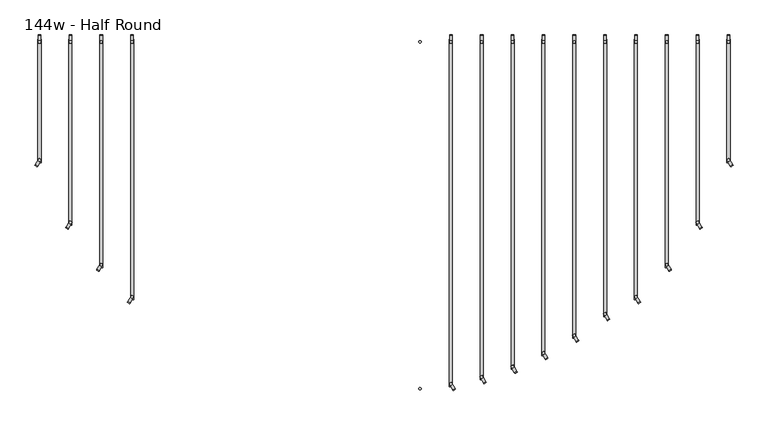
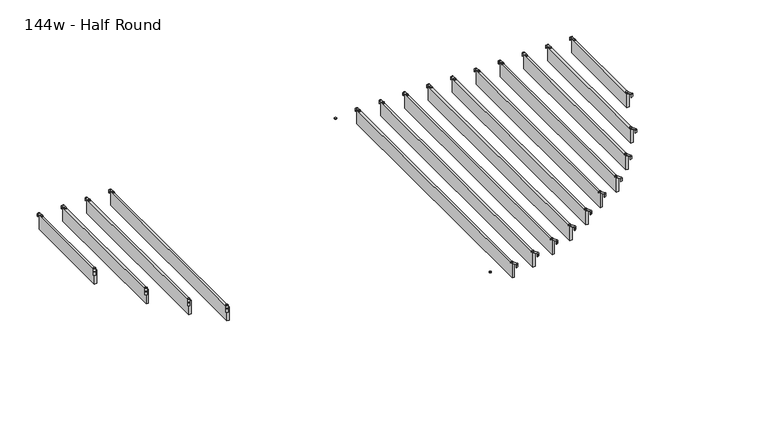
"""IFC4 building model written with IfcOpenShell, lengths in millimetres: furniture geometry, Haworth_Pergola_Ceiling_Slat_Radial : 144w - Half Round."""

from ifc_helpers import new_model, si_unit, point, frame, frame_2d, origin, place, context, project, spatial, polyline, circle_curve, trimmed, segment, composite_curve, outline, extrude, source, transform, mapped, element, save


def furniture_144w_half_round_42c44f93(model_context):
    return source(origin(), model_context, "Body", "SweptSolid", [
        extrude(outline(composite_curve([segment(trimmed(circle_curve(frame_2d((-1.0160034, 0.0159998)), 1.016), [point((-1.0160034, -1.0000002))], [point((-3.4e-06, 0.0159998))], True, "CARTESIAN"), True, "CONTINUOUS"), segment(polyline([(-3.4e-06, 0.0159998), (-3.4e-06, 36.778517), (2.5329992, 36.778517), (2.5329992, 0.0229991)]), True, "CONTINUOUS"), segment(trimmed(circle_curve(frame_2d((-1.1500008, 0.0229991)), 3.683), [point((2.5329992, 0.0229991))], [point((-1.1500008, -3.660001))], False, "CARTESIAN"), True, "CONTINUOUS"), segment(polyline([(-1.1500008, -3.660001), (-19.0498319, -3.660001), (-19.0498319, -1.0000002), (-1.0160034, -1.0000002)]), True, "CONTINUOUS")], self_intersect=False)), frame((-1673.3208344, 1604.784826, 2438.4), z_axis=(-0.8660254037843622, 0.5000000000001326, 0.0), x_axis=(0.0, 0.0, 1.0)), (0.0, 0.0, 1.0), 13.0000002),
        extrude(outline(composite_curve([segment(trimmed(circle_curve(frame_2d((-1663.7, 2218.9346)), 5.9838099), [point((-1663.7, 2212.9507901))], [point((-1663.7, 2224.9184099))], False, "CARTESIAN"), True, "CONTINUOUS"), segment(trimmed(circle_curve(frame_2d((-1663.7, 2218.9346)), 5.9838099), [point((-1663.7, 2224.9184099))], [point((-1663.7, 2212.9507901))], False, "CARTESIAN"), True, "CONTINUOUS")], self_intersect=False)), frame((0.0, 0.0, 2440.9329992), z_axis=(0.0, 0.0, 1.0), x_axis=(1.0, 0.0, 0.0)), (0.0, 0.0, 1.0), 3.4400008),
        extrude(outline(composite_curve([segment(trimmed(circle_curve(frame_2d((-1663.7, 1634.4486)), 5.9838099), [point((-1663.7, 1640.4324099))], [point((-1663.7, 1628.4647901))], False, "CARTESIAN"), True, "CONTINUOUS"), segment(trimmed(circle_curve(frame_2d((-1663.7, 1634.4486)), 5.9838099), [point((-1663.7, 1628.4647901))], [point((-1663.7, 1640.4324099))], False, "CARTESIAN"), True, "CONTINUOUS")], self_intersect=False)), frame((0.0, 0.0, 2440.9329992), z_axis=(0.0, 0.0, 1.0), x_axis=(1.0, 0.0, 0.0)), (0.0, 0.0, 1.0), 3.4400008),
        extrude(outline(composite_curve([segment(polyline([(2253.0946, 2419.2231711), (2250.4345993, 2419.2231711), (2250.4345993, 2437.2635571)]), True, "CONTINUOUS"), segment(trimmed(circle_curve(frame_2d((2249.4251568, 2437.2635571)), 1.0094425), [point((2250.4345993, 2437.2635571))], [point((2249.4251568, 2438.2729997))], True, "CARTESIAN"), True, "CONTINUOUS"), segment(polyline([(2249.4251568, 2438.2729997), (2212.4346, 2438.2729997), (2212.4346, 2440.9329992), (2249.4116, 2440.9329992)]), True, "CONTINUOUS"), segment(trimmed(circle_curve(frame_2d((2249.4116, 2437.2499992)), 3.683), [point((2249.4116, 2440.9329992))], [point((2253.0946, 2437.2499992))], False, "CARTESIAN"), True, "CONTINUOUS"), segment(polyline([(2253.0946, 2437.2499992), (2253.0946, 2419.2231711)]), True, "CONTINUOUS")], self_intersect=False)), frame((-1670.1930003, 0.0, 0.0), z_axis=(1.0, 0.0, 0.0), x_axis=(0.0, 1.0, 0.0)), (0.0, 0.0, 1.0), 13.0),
        extrude(outline(polyline([(-1671.193, 1620.7486), (-1671.193, 2232.6346), (-1656.207, 2232.6346), (-1656.207, 1620.7486), (-1671.193, 1620.7486)])), frame((0.0, 0.0, 2346.198), z_axis=(0.0, 0.0, 1.0), x_axis=(1.0, 0.0, 0.0)), (0.0, 0.0, 1.0), 92.202),
        extrude(outline(composite_curve([segment(trimmed(circle_curve(frame_2d((-1.0160034, 0.0159998)), 1.016), [point((-1.0160034, -1.0000002))], [point((-3.4e-06, 0.0159998))], True, "CARTESIAN"), True, "CONTINUOUS"), segment(polyline([(-3.4e-06, 0.0159998), (-3.4e-06, 36.778517), (2.5329992, 36.778517), (2.5329992, 0.0229991)]), True, "CONTINUOUS"), segment(trimmed(circle_curve(frame_2d((-1.1500008, 0.0229991)), 3.683), [point((2.5329992, 0.0229991))], [point((-1.1500008, -3.660001))], False, "CARTESIAN"), True, "CONTINUOUS"), segment(polyline([(-1.1500008, -3.660001), (-19.0498319, -3.660001), (-19.0498319, -1.0000002), (-1.0160034, -1.0000002)]), True, "CONTINUOUS")], self_intersect=False)), frame((-1520.9208344, 1296.682826, 2438.4), z_axis=(-0.8660254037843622, 0.5000000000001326, 0.0), x_axis=(0.0, 0.0, 1.0)), (0.0, 0.0, 1.0), 13.0000002),
        extrude(outline(composite_curve([segment(trimmed(circle_curve(frame_2d((-1511.3, 2218.9346)), 5.9838099), [point((-1511.3, 2212.9507901))], [point((-1511.3, 2224.9184099))], False, "CARTESIAN"), True, "CONTINUOUS"), segment(trimmed(circle_curve(frame_2d((-1511.3, 2218.9346)), 5.9838099), [point((-1511.3, 2224.9184099))], [point((-1511.3, 2212.9507901))], False, "CARTESIAN"), True, "CONTINUOUS")], self_intersect=False)), frame((0.0, 0.0, 2440.9329992), z_axis=(0.0, 0.0, 1.0), x_axis=(1.0, 0.0, 0.0)), (0.0, 0.0, 1.0), 3.4400008),
        extrude(outline(composite_curve([segment(trimmed(circle_curve(frame_2d((-1511.3, 1326.3466)), 5.9838099), [point((-1511.3, 1332.3304099))], [point((-1511.3, 1320.3627901))], False, "CARTESIAN"), True, "CONTINUOUS"), segment(trimmed(circle_curve(frame_2d((-1511.3, 1326.3466)), 5.9838099), [point((-1511.3, 1320.3627901))], [point((-1511.3, 1332.3304099))], False, "CARTESIAN"), True, "CONTINUOUS")], self_intersect=False)), frame((0.0, 0.0, 2440.9329992), z_axis=(0.0, 0.0, 1.0), x_axis=(1.0, 0.0, 0.0)), (0.0, 0.0, 1.0), 3.4400008),
        extrude(outline(composite_curve([segment(polyline([(2253.0946, 2419.2231711), (2250.4345993, 2419.2231711), (2250.4345993, 2437.2635571)]), True, "CONTINUOUS"), segment(trimmed(circle_curve(frame_2d((2249.4251568, 2437.2635571)), 1.0094425), [point((2250.4345993, 2437.2635571))], [point((2249.4251568, 2438.2729997))], True, "CARTESIAN"), True, "CONTINUOUS"), segment(polyline([(2249.4251568, 2438.2729997), (2212.4346, 2438.2729997), (2212.4346, 2440.9329992), (2249.4116, 2440.9329992)]), True, "CONTINUOUS"), segment(trimmed(circle_curve(frame_2d((2249.4116, 2437.2499992)), 3.683), [point((2249.4116, 2440.9329992))], [point((2253.0946, 2437.2499992))], False, "CARTESIAN"), True, "CONTINUOUS"), segment(polyline([(2253.0946, 2437.2499992), (2253.0946, 2419.2231711)]), True, "CONTINUOUS")], self_intersect=False)), frame((-1517.7930003, 0.0, 0.0), z_axis=(1.0, 0.0, 0.0), x_axis=(0.0, 1.0, 0.0)), (0.0, 0.0, 1.0), 13.0),
        extrude(outline(polyline([(-1518.793, 1312.6466), (-1518.793, 2232.6346), (-1503.807, 2232.6346), (-1503.807, 1312.6466), (-1518.793, 1312.6466)])), frame((0.0, 0.0, 2346.198), z_axis=(0.0, 0.0, 1.0), x_axis=(1.0, 0.0, 0.0)), (0.0, 0.0, 1.0), 92.202),
        extrude(outline(composite_curve([segment(trimmed(circle_curve(frame_2d((-1.0160034, 0.0159998)), 1.016), [point((-1.0160034, -1.0000002))], [point((-3.4e-06, 0.0159998))], True, "CARTESIAN"), True, "CONTINUOUS"), segment(polyline([(-3.4e-06, 0.0159998), (-3.4e-06, 36.778517), (2.5329992, 36.778517), (2.5329992, 0.0229991)]), True, "CONTINUOUS"), segment(trimmed(circle_curve(frame_2d((-1.1500008, 0.0229991)), 3.683), [point((2.5329992, 0.0229991))], [point((-1.1500008, -3.660001))], False, "CARTESIAN"), True, "CONTINUOUS"), segment(polyline([(-1.1500008, -3.660001), (-19.0498319, -3.660001), (-19.0498319, -1.0000002), (-1.0160034, -1.0000002)]), True, "CONTINUOUS")], self_intersect=False)), frame((-1368.5208344, 1087.742426, 2438.4), z_axis=(-0.8660254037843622, 0.5000000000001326, 0.0), x_axis=(0.0, 0.0, 1.0)), (0.0, 0.0, 1.0), 13.0000002),
        extrude(outline(composite_curve([segment(trimmed(circle_curve(frame_2d((-1358.9, 2218.9346)), 5.9838099), [point((-1358.9, 2212.9507901))], [point((-1358.9, 2224.9184099))], False, "CARTESIAN"), True, "CONTINUOUS"), segment(trimmed(circle_curve(frame_2d((-1358.9, 2218.9346)), 5.9838099), [point((-1358.9, 2224.9184099))], [point((-1358.9, 2212.9507901))], False, "CARTESIAN"), True, "CONTINUOUS")], self_intersect=False)), frame((0.0, 0.0, 2440.9329992), z_axis=(0.0, 0.0, 1.0), x_axis=(1.0, 0.0, 0.0)), (0.0, 0.0, 1.0), 3.4400008),
        extrude(outline(composite_curve([segment(trimmed(circle_curve(frame_2d((-1358.9, 1117.4062)), 5.9838099), [point((-1358.9, 1123.3900099))], [point((-1358.9, 1111.4223901))], False, "CARTESIAN"), True, "CONTINUOUS"), segment(trimmed(circle_curve(frame_2d((-1358.9, 1117.4062)), 5.9838099), [point((-1358.9, 1111.4223901))], [point((-1358.9, 1123.3900099))], False, "CARTESIAN"), True, "CONTINUOUS")], self_intersect=False)), frame((0.0, 0.0, 2440.9329992), z_axis=(0.0, 0.0, 1.0), x_axis=(1.0, 0.0, 0.0)), (0.0, 0.0, 1.0), 3.4400008),
        extrude(outline(composite_curve([segment(polyline([(2253.0946, 2419.2231711), (2250.4345993, 2419.2231711), (2250.4345993, 2437.2635571)]), True, "CONTINUOUS"), segment(trimmed(circle_curve(frame_2d((2249.4251568, 2437.2635571)), 1.0094425), [point((2250.4345993, 2437.2635571))], [point((2249.4251568, 2438.2729997))], True, "CARTESIAN"), True, "CONTINUOUS"), segment(polyline([(2249.4251568, 2438.2729997), (2212.4346, 2438.2729997), (2212.4346, 2440.9329992), (2249.4116, 2440.9329992)]), True, "CONTINUOUS"), segment(trimmed(circle_curve(frame_2d((2249.4116, 2437.2499992)), 3.683), [point((2249.4116, 2440.9329992))], [point((2253.0946, 2437.2499992))], False, "CARTESIAN"), True, "CONTINUOUS"), segment(polyline([(2253.0946, 2437.2499992), (2253.0946, 2419.2231711)]), True, "CONTINUOUS")], self_intersect=False)), frame((-1365.3930003, 0.0, 0.0), z_axis=(1.0, 0.0, 0.0), x_axis=(0.0, 1.0, 0.0)), (0.0, 0.0, 1.0), 13.0),
        extrude(outline(polyline([(-1366.393, 1103.7062), (-1366.393, 2232.6346), (-1351.407, 2232.6346), (-1351.407, 1103.7062), (-1366.393, 1103.7062)])), frame((0.0, 0.0, 2346.198), z_axis=(0.0, 0.0, 1.0), x_axis=(1.0, 0.0, 0.0)), (0.0, 0.0, 1.0), 92.202),
        extrude(outline(composite_curve([segment(trimmed(circle_curve(frame_2d((-1.0160034, 0.0159998)), 1.016), [point((-1.0160034, -1.0000002))], [point((-3.4e-06, 0.0159998))], True, "CARTESIAN"), True, "CONTINUOUS"), segment(polyline([(-3.4e-06, 0.0159998), (-3.4e-06, 36.778517), (2.5329992, 36.778517), (2.5329992, 0.0229991)]), True, "CONTINUOUS"), segment(trimmed(circle_curve(frame_2d((-1.1500008, 0.0229991)), 3.683), [point((2.5329992, 0.0229991))], [point((-1.1500008, -3.660001))], False, "CARTESIAN"), True, "CONTINUOUS"), segment(polyline([(-1.1500008, -3.660001), (-19.0498319, -3.660001), (-19.0498319, -1.0000002), (-1.0160034, -1.0000002)]), True, "CONTINUOUS")], self_intersect=False)), frame((-1216.1208344, 929.246426, 2438.4), z_axis=(-0.8660254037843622, 0.5000000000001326, 0.0), x_axis=(0.0, 0.0, 1.0)), (0.0, 0.0, 1.0), 13.0000002),
        extrude(outline(composite_curve([segment(trimmed(circle_curve(frame_2d((-1206.5, 2218.9346)), 5.9838099), [point((-1206.5, 2212.9507901))], [point((-1206.5, 2224.9184099))], False, "CARTESIAN"), True, "CONTINUOUS"), segment(trimmed(circle_curve(frame_2d((-1206.5, 2218.9346)), 5.9838099), [point((-1206.5, 2224.9184099))], [point((-1206.5, 2212.9507901))], False, "CARTESIAN"), True, "CONTINUOUS")], self_intersect=False)), frame((0.0, 0.0, 2440.9329992), z_axis=(0.0, 0.0, 1.0), x_axis=(1.0, 0.0, 0.0)), (0.0, 0.0, 1.0), 3.4400008),
        extrude(outline(composite_curve([segment(trimmed(circle_curve(frame_2d((-1206.5, 958.9102)), 5.9838099), [point((-1206.5, 964.8940099))], [point((-1206.5, 952.9263901))], False, "CARTESIAN"), True, "CONTINUOUS"), segment(trimmed(circle_curve(frame_2d((-1206.5, 958.9102)), 5.9838099), [point((-1206.5, 952.9263901))], [point((-1206.5, 964.8940099))], False, "CARTESIAN"), True, "CONTINUOUS")], self_intersect=False)), frame((0.0, 0.0, 2440.9329992), z_axis=(0.0, 0.0, 1.0), x_axis=(1.0, 0.0, 0.0)), (0.0, 0.0, 1.0), 3.4400008),
        extrude(outline(composite_curve([segment(polyline([(2253.0946, 2419.2231711), (2250.4345993, 2419.2231711), (2250.4345993, 2437.2635571)]), True, "CONTINUOUS"), segment(trimmed(circle_curve(frame_2d((2249.4251568, 2437.2635571)), 1.0094425), [point((2250.4345993, 2437.2635571))], [point((2249.4251568, 2438.2729997))], True, "CARTESIAN"), True, "CONTINUOUS"), segment(polyline([(2249.4251568, 2438.2729997), (2212.4346, 2438.2729997), (2212.4346, 2440.9329992), (2249.4116, 2440.9329992)]), True, "CONTINUOUS"), segment(trimmed(circle_curve(frame_2d((2249.4116, 2437.2499992)), 3.683), [point((2249.4116, 2440.9329992))], [point((2253.0946, 2437.2499992))], False, "CARTESIAN"), True, "CONTINUOUS"), segment(polyline([(2253.0946, 2437.2499992), (2253.0946, 2419.2231711)]), True, "CONTINUOUS")], self_intersect=False)), frame((-1212.9930003, 0.0, 0.0), z_axis=(1.0, 0.0, 0.0), x_axis=(0.0, 1.0, 0.0)), (0.0, 0.0, 1.0), 13.0),
        extrude(outline(polyline([(-1213.993, 945.2102), (-1213.993, 2232.6346), (-1199.007, 2232.6346), (-1199.007, 945.2102), (-1213.993, 945.2102)])), frame((0.0, 0.0, 2346.198), z_axis=(0.0, 0.0, 1.0), x_axis=(1.0, 0.0, 0.0)), (0.0, 0.0, 1.0), 92.202),
        extrude(outline(composite_curve([segment(polyline([(-1.0160034, 1.0000002), (-19.0498319, 1.0000002), (-19.0498319, 3.660001), (-1.1500008, 3.660001)]), True, "CONTINUOUS"), segment(trimmed(circle_curve(frame_2d((-1.1500008, -0.0229991)), 3.683), [point((-1.1500008, 3.660001))], [point((2.5329992, -0.0229991))], False, "CARTESIAN"), True, "CONTINUOUS"), segment(polyline([(2.5329992, -0.0229991), (2.5329992, -36.778517), (-3.4e-06, -36.778517), (-3.4e-06, -0.0159998)]), True, "CONTINUOUS"), segment(trimmed(circle_curve(frame_2d((-1.0160034, -0.0159998)), 1.016), [point((-3.4e-06, -0.0159998))], [point((-1.0160034, 1.0000002))], True, "CARTESIAN"), True, "CONTINUOUS")], self_intersect=False)), frame((1749.5208344, 1604.784826, 2438.4), z_axis=(0.8660254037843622, 0.5000000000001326, 0.0), x_axis=(0.0, 0.0, 1.0)), (0.0, 0.0, 1.0), 13.0000002),
        extrude(outline(composite_curve([segment(trimmed(circle_curve(frame_2d((1739.9, 2218.9346)), 5.9838099), [point((1739.9, 2212.9507901))], [point((1739.9, 2224.9184099))], False, "CARTESIAN"), True, "CONTINUOUS"), segment(trimmed(circle_curve(frame_2d((1739.9, 2218.9346)), 5.9838099), [point((1739.9, 2224.9184099))], [point((1739.9, 2212.9507901))], False, "CARTESIAN"), True, "CONTINUOUS")], self_intersect=False)), frame((0.0, 0.0, 2440.9329992), z_axis=(0.0, 0.0, 1.0), x_axis=(1.0, 0.0, 0.0)), (0.0, 0.0, 1.0), 3.4400008),
        extrude(outline(composite_curve([segment(trimmed(circle_curve(frame_2d((1739.9, 1634.4486)), 5.9838099), [point((1739.9, 1640.4324099))], [point((1739.9, 1628.4647901))], False, "CARTESIAN"), True, "CONTINUOUS"), segment(trimmed(circle_curve(frame_2d((1739.9, 1634.4486)), 5.9838099), [point((1739.9, 1628.4647901))], [point((1739.9, 1640.4324099))], False, "CARTESIAN"), True, "CONTINUOUS")], self_intersect=False)), frame((0.0, 0.0, 2440.9329992), z_axis=(0.0, 0.0, 1.0), x_axis=(1.0, 0.0, 0.0)), (0.0, 0.0, 1.0), 3.4400008),
        extrude(outline(composite_curve([segment(polyline([(2253.0946, 2419.2231711), (2250.4345993, 2419.2231711), (2250.4345993, 2437.2635571)]), True, "CONTINUOUS"), segment(trimmed(circle_curve(frame_2d((2249.4251568, 2437.2635571)), 1.0094425), [point((2250.4345993, 2437.2635571))], [point((2249.4251568, 2438.2729997))], True, "CARTESIAN"), True, "CONTINUOUS"), segment(polyline([(2249.4251568, 2438.2729997), (2212.4346, 2438.2729997), (2212.4346, 2440.9329992), (2249.4116, 2440.9329992)]), True, "CONTINUOUS"), segment(trimmed(circle_curve(frame_2d((2249.4116, 2437.2499992)), 3.683), [point((2249.4116, 2440.9329992))], [point((2253.0946, 2437.2499992))], False, "CARTESIAN"), True, "CONTINUOUS"), segment(polyline([(2253.0946, 2437.2499992), (2253.0946, 2419.2231711)]), True, "CONTINUOUS")], self_intersect=False)), frame((1733.3930003, 0.0, 0.0), z_axis=(1.0, 0.0, 0.0), x_axis=(0.0, 1.0, 0.0)), (0.0, 0.0, 1.0), 13.0),
        extrude(outline(polyline([(1747.393, 1620.7486), (1732.407, 1620.7486), (1732.407, 2232.6346), (1747.393, 2232.6346), (1747.393, 1620.7486)])), frame((0.0, 0.0, 2346.198), z_axis=(0.0, 0.0, 1.0), x_axis=(1.0, 0.0, 0.0)), (0.0, 0.0, 1.0), 92.202),
        extrude(outline(composite_curve([segment(polyline([(-1.0160034, 1.0000002), (-19.0498319, 1.0000002), (-19.0498319, 3.660001), (-1.1500008, 3.660001)]), True, "CONTINUOUS"), segment(trimmed(circle_curve(frame_2d((-1.1500008, -0.0229991)), 3.683), [point((-1.1500008, 3.660001))], [point((2.5329992, -0.0229991))], False, "CARTESIAN"), True, "CONTINUOUS"), segment(polyline([(2.5329992, -0.0229991), (2.5329992, -36.778517), (-3.4e-06, -36.778517), (-3.4e-06, -0.0159998)]), True, "CONTINUOUS"), segment(trimmed(circle_curve(frame_2d((-1.0160034, -0.0159998)), 1.016), [point((-3.4e-06, -0.0159998))], [point((-1.0160034, 1.0000002))], True, "CARTESIAN"), True, "CONTINUOUS")], self_intersect=False)), frame((1597.1208344, 1296.682826, 2438.4), z_axis=(0.8660254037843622, 0.5000000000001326, 0.0), x_axis=(0.0, 0.0, 1.0)), (0.0, 0.0, 1.0), 13.0000002),
        extrude(outline(composite_curve([segment(trimmed(circle_curve(frame_2d((1587.5, 2218.9346)), 5.9838099), [point((1587.5, 2212.9507901))], [point((1587.5, 2224.9184099))], False, "CARTESIAN"), True, "CONTINUOUS"), segment(trimmed(circle_curve(frame_2d((1587.5, 2218.9346)), 5.9838099), [point((1587.5, 2224.9184099))], [point((1587.5, 2212.9507901))], False, "CARTESIAN"), True, "CONTINUOUS")], self_intersect=False)), frame((0.0, 0.0, 2440.9329992), z_axis=(0.0, 0.0, 1.0), x_axis=(1.0, 0.0, 0.0)), (0.0, 0.0, 1.0), 3.4400008),
        extrude(outline(composite_curve([segment(trimmed(circle_curve(frame_2d((1587.5, 1326.3466)), 5.9838099), [point((1587.5, 1332.3304099))], [point((1587.5, 1320.3627901))], False, "CARTESIAN"), True, "CONTINUOUS"), segment(trimmed(circle_curve(frame_2d((1587.5, 1326.3466)), 5.9838099), [point((1587.5, 1320.3627901))], [point((1587.5, 1332.3304099))], False, "CARTESIAN"), True, "CONTINUOUS")], self_intersect=False)), frame((0.0, 0.0, 2440.9329992), z_axis=(0.0, 0.0, 1.0), x_axis=(1.0, 0.0, 0.0)), (0.0, 0.0, 1.0), 3.4400008),
        extrude(outline(composite_curve([segment(polyline([(2253.0946, 2419.2231711), (2250.4345993, 2419.2231711), (2250.4345993, 2437.2635571)]), True, "CONTINUOUS"), segment(trimmed(circle_curve(frame_2d((2249.4251568, 2437.2635571)), 1.0094425), [point((2250.4345993, 2437.2635571))], [point((2249.4251568, 2438.2729997))], True, "CARTESIAN"), True, "CONTINUOUS"), segment(polyline([(2249.4251568, 2438.2729997), (2212.4346, 2438.2729997), (2212.4346, 2440.9329992), (2249.4116, 2440.9329992)]), True, "CONTINUOUS"), segment(trimmed(circle_curve(frame_2d((2249.4116, 2437.2499992)), 3.683), [point((2249.4116, 2440.9329992))], [point((2253.0946, 2437.2499992))], False, "CARTESIAN"), True, "CONTINUOUS"), segment(polyline([(2253.0946, 2437.2499992), (2253.0946, 2419.2231711)]), True, "CONTINUOUS")], self_intersect=False)), frame((1580.9930003, 0.0, 0.0), z_axis=(1.0, 0.0, 0.0), x_axis=(0.0, 1.0, 0.0)), (0.0, 0.0, 1.0), 13.0),
        extrude(outline(polyline([(1594.993, 1312.6466), (1580.007, 1312.6466), (1580.007, 2232.6346), (1594.993, 2232.6346), (1594.993, 1312.6466)])), frame((0.0, 0.0, 2346.198), z_axis=(0.0, 0.0, 1.0), x_axis=(1.0, 0.0, 0.0)), (0.0, 0.0, 1.0), 92.202),
        extrude(outline(composite_curve([segment(polyline([(-1.0160034, 1.0000002), (-19.0498319, 1.0000002), (-19.0498319, 3.660001), (-1.1500008, 3.660001)]), True, "CONTINUOUS"), segment(trimmed(circle_curve(frame_2d((-1.1500008, -0.0229991)), 3.683), [point((-1.1500008, 3.660001))], [point((2.5329992, -0.0229991))], False, "CARTESIAN"), True, "CONTINUOUS"), segment(polyline([(2.5329992, -0.0229991), (2.5329992, -36.778517), (-3.4e-06, -36.778517), (-3.4e-06, -0.0159998)]), True, "CONTINUOUS"), segment(trimmed(circle_curve(frame_2d((-1.0160034, -0.0159998)), 1.016), [point((-3.4e-06, -0.0159998))], [point((-1.0160034, 1.0000002))], True, "CARTESIAN"), True, "CONTINUOUS")], self_intersect=False)), frame((1444.7208344, 1087.742426, 2438.4), z_axis=(0.8660254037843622, 0.5000000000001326, 0.0), x_axis=(0.0, 0.0, 1.0)), (0.0, 0.0, 1.0), 13.0000002),
        extrude(outline(composite_curve([segment(trimmed(circle_curve(frame_2d((1435.1, 2218.9346)), 5.9838099), [point((1435.1, 2212.9507901))], [point((1435.1, 2224.9184099))], False, "CARTESIAN"), True, "CONTINUOUS"), segment(trimmed(circle_curve(frame_2d((1435.1, 2218.9346)), 5.9838099), [point((1435.1, 2224.9184099))], [point((1435.1, 2212.9507901))], False, "CARTESIAN"), True, "CONTINUOUS")], self_intersect=False)), frame((0.0, 0.0, 2440.9329992), z_axis=(0.0, 0.0, 1.0), x_axis=(1.0, 0.0, 0.0)), (0.0, 0.0, 1.0), 3.4400008),
        extrude(outline(composite_curve([segment(trimmed(circle_curve(frame_2d((1435.1, 1117.4062)), 5.9838099), [point((1435.1, 1123.3900099))], [point((1435.1, 1111.4223901))], False, "CARTESIAN"), True, "CONTINUOUS"), segment(trimmed(circle_curve(frame_2d((1435.1, 1117.4062)), 5.9838099), [point((1435.1, 1111.4223901))], [point((1435.1, 1123.3900099))], False, "CARTESIAN"), True, "CONTINUOUS")], self_intersect=False)), frame((0.0, 0.0, 2440.9329992), z_axis=(0.0, 0.0, 1.0), x_axis=(1.0, 0.0, 0.0)), (0.0, 0.0, 1.0), 3.4400008),
        extrude(outline(composite_curve([segment(polyline([(2253.0946, 2419.2231711), (2250.4345993, 2419.2231711), (2250.4345993, 2437.2635571)]), True, "CONTINUOUS"), segment(trimmed(circle_curve(frame_2d((2249.4251568, 2437.2635571)), 1.0094425), [point((2250.4345993, 2437.2635571))], [point((2249.4251568, 2438.2729997))], True, "CARTESIAN"), True, "CONTINUOUS"), segment(polyline([(2249.4251568, 2438.2729997), (2212.4346, 2438.2729997), (2212.4346, 2440.9329992), (2249.4116, 2440.9329992)]), True, "CONTINUOUS"), segment(trimmed(circle_curve(frame_2d((2249.4116, 2437.2499992)), 3.683), [point((2249.4116, 2440.9329992))], [point((2253.0946, 2437.2499992))], False, "CARTESIAN"), True, "CONTINUOUS"), segment(polyline([(2253.0946, 2437.2499992), (2253.0946, 2419.2231711)]), True, "CONTINUOUS")], self_intersect=False)), frame((1428.5930003, 0.0, 0.0), z_axis=(1.0, 0.0, 0.0), x_axis=(0.0, 1.0, 0.0)), (0.0, 0.0, 1.0), 13.0),
        extrude(outline(polyline([(1442.593, 1103.7062), (1427.607, 1103.7062), (1427.607, 2232.6346), (1442.593, 2232.6346), (1442.593, 1103.7062)])), frame((0.0, 0.0, 2346.198), z_axis=(0.0, 0.0, 1.0), x_axis=(1.0, 0.0, 0.0)), (0.0, 0.0, 1.0), 92.202),
        extrude(outline(composite_curve([segment(polyline([(-1.0160034, 1.0000002), (-19.0498319, 1.0000002), (-19.0498319, 3.660001), (-1.1500008, 3.660001)]), True, "CONTINUOUS"), segment(trimmed(circle_curve(frame_2d((-1.1500008, -0.0229991)), 3.683), [point((-1.1500008, 3.660001))], [point((2.5329992, -0.0229991))], False, "CARTESIAN"), True, "CONTINUOUS"), segment(polyline([(2.5329992, -0.0229991), (2.5329992, -36.778517), (-3.4e-06, -36.778517), (-3.4e-06, -0.0159998)]), True, "CONTINUOUS"), segment(trimmed(circle_curve(frame_2d((-1.0160034, -0.0159998)), 1.016), [point((-3.4e-06, -0.0159998))], [point((-1.0160034, 1.0000002))], True, "CARTESIAN"), True, "CONTINUOUS")], self_intersect=False)), frame((1292.3208344, 929.246426, 2438.4), z_axis=(0.8660254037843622, 0.5000000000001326, 0.0), x_axis=(0.0, 0.0, 1.0)), (0.0, 0.0, 1.0), 13.0000002),
        extrude(outline(composite_curve([segment(trimmed(circle_curve(frame_2d((1282.7, 2218.9346)), 5.9838099), [point((1282.7, 2212.9507901))], [point((1282.7, 2224.9184099))], False, "CARTESIAN"), True, "CONTINUOUS"), segment(trimmed(circle_curve(frame_2d((1282.7, 2218.9346)), 5.9838099), [point((1282.7, 2224.9184099))], [point((1282.7, 2212.9507901))], False, "CARTESIAN"), True, "CONTINUOUS")], self_intersect=False)), frame((0.0, 0.0, 2440.9329992), z_axis=(0.0, 0.0, 1.0), x_axis=(1.0, 0.0, 0.0)), (0.0, 0.0, 1.0), 3.4400008),
        extrude(outline(composite_curve([segment(trimmed(circle_curve(frame_2d((1282.7, 958.9102)), 5.9838099), [point((1282.7, 964.8940099))], [point((1282.7, 952.9263901))], False, "CARTESIAN"), True, "CONTINUOUS"), segment(trimmed(circle_curve(frame_2d((1282.7, 958.9102)), 5.9838099), [point((1282.7, 952.9263901))], [point((1282.7, 964.8940099))], False, "CARTESIAN"), True, "CONTINUOUS")], self_intersect=False)), frame((0.0, 0.0, 2440.9329992), z_axis=(0.0, 0.0, 1.0), x_axis=(1.0, 0.0, 0.0)), (0.0, 0.0, 1.0), 3.4400008),
        extrude(outline(composite_curve([segment(polyline([(2253.0946, 2419.2231711), (2250.4345993, 2419.2231711), (2250.4345993, 2437.2635571)]), True, "CONTINUOUS"), segment(trimmed(circle_curve(frame_2d((2249.4251568, 2437.2635571)), 1.0094425), [point((2250.4345993, 2437.2635571))], [point((2249.4251568, 2438.2729997))], True, "CARTESIAN"), True, "CONTINUOUS"), segment(polyline([(2249.4251568, 2438.2729997), (2212.4346, 2438.2729997), (2212.4346, 2440.9329992), (2249.4116, 2440.9329992)]), True, "CONTINUOUS"), segment(trimmed(circle_curve(frame_2d((2249.4116, 2437.2499992)), 3.683), [point((2249.4116, 2440.9329992))], [point((2253.0946, 2437.2499992))], False, "CARTESIAN"), True, "CONTINUOUS"), segment(polyline([(2253.0946, 2437.2499992), (2253.0946, 2419.2231711)]), True, "CONTINUOUS")], self_intersect=False)), frame((1276.1930003, 0.0, 0.0), z_axis=(1.0, 0.0, 0.0), x_axis=(0.0, 1.0, 0.0)), (0.0, 0.0, 1.0), 13.0),
        extrude(outline(polyline([(1290.193, 945.2102), (1275.207, 945.2102), (1275.207, 2232.6346), (1290.193, 2232.6346), (1290.193, 945.2102)])), frame((0.0, 0.0, 2346.198), z_axis=(0.0, 0.0, 1.0), x_axis=(1.0, 0.0, 0.0)), (0.0, 0.0, 1.0), 92.202),
        extrude(outline(composite_curve([segment(polyline([(-1.0160034, 1.0000002), (-19.0498319, 1.0000002), (-19.0498319, 3.660001), (-1.1500008, 3.660001)]), True, "CONTINUOUS"), segment(trimmed(circle_curve(frame_2d((-1.1500008, -0.0229991)), 3.683), [point((-1.1500008, 3.660001))], [point((2.5329992, -0.0229991))], False, "CARTESIAN"), True, "CONTINUOUS"), segment(polyline([(2.5329992, -0.0229991), (2.5329992, -36.778517), (-3.4e-06, -36.778517), (-3.4e-06, -0.0159998)]), True, "CONTINUOUS"), segment(trimmed(circle_curve(frame_2d((-1.0160034, -0.0159998)), 1.016), [point((-3.4e-06, -0.0159998))], [point((-1.0160034, 1.0000002))], True, "CARTESIAN"), True, "CONTINUOUS")], self_intersect=False)), frame((1139.9208344, 844.156426, 2438.4), z_axis=(0.8660254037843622, 0.5000000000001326, 0.0), x_axis=(0.0, 0.0, 1.0)), (0.0, 0.0, 1.0), 13.0000002),
        extrude(outline(composite_curve([segment(trimmed(circle_curve(frame_2d((1130.3, 2218.9346)), 5.9838099), [point((1130.3, 2212.9507901))], [point((1130.3, 2224.9184099))], False, "CARTESIAN"), True, "CONTINUOUS"), segment(trimmed(circle_curve(frame_2d((1130.3, 2218.9346)), 5.9838099), [point((1130.3, 2224.9184099))], [point((1130.3, 2212.9507901))], False, "CARTESIAN"), True, "CONTINUOUS")], self_intersect=False)), frame((0.0, 0.0, 2440.9329992), z_axis=(0.0, 0.0, 1.0), x_axis=(1.0, 0.0, 0.0)), (0.0, 0.0, 1.0), 3.4400008),
        extrude(outline(composite_curve([segment(trimmed(circle_curve(frame_2d((1130.3, 873.8202)), 5.9838099), [point((1130.3, 879.8040099))], [point((1130.3, 867.8363901))], False, "CARTESIAN"), True, "CONTINUOUS"), segment(trimmed(circle_curve(frame_2d((1130.3, 873.8202)), 5.9838099), [point((1130.3, 867.8363901))], [point((1130.3, 879.8040099))], False, "CARTESIAN"), True, "CONTINUOUS")], self_intersect=False)), frame((0.0, 0.0, 2440.9329992), z_axis=(0.0, 0.0, 1.0), x_axis=(1.0, 0.0, 0.0)), (0.0, 0.0, 1.0), 3.4400008),
        extrude(outline(composite_curve([segment(polyline([(2253.0946, 2419.2231711), (2250.4345993, 2419.2231711), (2250.4345993, 2437.2635571)]), True, "CONTINUOUS"), segment(trimmed(circle_curve(frame_2d((2249.4251568, 2437.2635571)), 1.0094425), [point((2250.4345993, 2437.2635571))], [point((2249.4251568, 2438.2729997))], True, "CARTESIAN"), True, "CONTINUOUS"), segment(polyline([(2249.4251568, 2438.2729997), (2212.4346, 2438.2729997), (2212.4346, 2440.9329992), (2249.4116, 2440.9329992)]), True, "CONTINUOUS"), segment(trimmed(circle_curve(frame_2d((2249.4116, 2437.2499992)), 3.683), [point((2249.4116, 2440.9329992))], [point((2253.0946, 2437.2499992))], False, "CARTESIAN"), True, "CONTINUOUS"), segment(polyline([(2253.0946, 2437.2499992), (2253.0946, 2419.2231711)]), True, "CONTINUOUS")], self_intersect=False)), frame((1123.7930003, 0.0, 0.0), z_axis=(1.0, 0.0, 0.0), x_axis=(0.0, 1.0, 0.0)), (0.0, 0.0, 1.0), 13.0),
        extrude(outline(polyline([(1137.793, 860.1202), (1122.807, 860.1202), (1122.807, 2232.6346), (1137.793, 2232.6346), (1137.793, 860.1202)])), frame((0.0, 0.0, 2346.198), z_axis=(0.0, 0.0, 1.0), x_axis=(1.0, 0.0, 0.0)), (0.0, 0.0, 1.0), 92.202),
        extrude(outline(composite_curve([segment(polyline([(-1.0160034, 1.0000002), (-19.0498319, 1.0000002), (-19.0498319, 3.660001), (-1.1500008, 3.660001)]), True, "CONTINUOUS"), segment(trimmed(circle_curve(frame_2d((-1.1500008, -0.0229991)), 3.683), [point((-1.1500008, 3.660001))], [point((2.5329992, -0.0229991))], False, "CARTESIAN"), True, "CONTINUOUS"), segment(polyline([(2.5329992, -0.0229991), (2.5329992, -36.778517), (-3.4e-06, -36.778517), (-3.4e-06, -0.0159998)]), True, "CONTINUOUS"), segment(trimmed(circle_curve(frame_2d((-1.0160034, -0.0159998)), 1.016), [point((-3.4e-06, -0.0159998))], [point((-1.0160034, 1.0000002))], True, "CARTESIAN"), True, "CONTINUOUS")], self_intersect=False)), frame((987.5208344, 738.340026, 2438.4), z_axis=(0.8660254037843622, 0.5000000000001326, 0.0), x_axis=(0.0, 0.0, 1.0)), (0.0, 0.0, 1.0), 13.0000002),
        extrude(outline(composite_curve([segment(trimmed(circle_curve(frame_2d((977.9, 2218.9346)), 5.9838099), [point((977.9, 2212.9507901))], [point((977.9, 2224.9184099))], False, "CARTESIAN"), True, "CONTINUOUS"), segment(trimmed(circle_curve(frame_2d((977.9, 2218.9346)), 5.9838099), [point((977.9, 2224.9184099))], [point((977.9, 2212.9507901))], False, "CARTESIAN"), True, "CONTINUOUS")], self_intersect=False)), frame((0.0, 0.0, 2440.9329992), z_axis=(0.0, 0.0, 1.0), x_axis=(1.0, 0.0, 0.0)), (0.0, 0.0, 1.0), 3.4400008),
        extrude(outline(composite_curve([segment(trimmed(circle_curve(frame_2d((977.9, 768.0038)), 5.9838099), [point((977.9, 773.9876099))], [point((977.9, 762.0199901))], False, "CARTESIAN"), True, "CONTINUOUS"), segment(trimmed(circle_curve(frame_2d((977.9, 768.0038)), 5.9838099), [point((977.9, 762.0199901))], [point((977.9, 773.9876099))], False, "CARTESIAN"), True, "CONTINUOUS")], self_intersect=False)), frame((0.0, 0.0, 2440.9329992), z_axis=(0.0, 0.0, 1.0), x_axis=(1.0, 0.0, 0.0)), (0.0, 0.0, 1.0), 3.4400008),
        extrude(outline(composite_curve([segment(polyline([(2253.0946, 2419.2231711), (2250.4345993, 2419.2231711), (2250.4345993, 2437.2635571)]), True, "CONTINUOUS"), segment(trimmed(circle_curve(frame_2d((2249.4251568, 2437.2635571)), 1.0094425), [point((2250.4345993, 2437.2635571))], [point((2249.4251568, 2438.2729997))], True, "CARTESIAN"), True, "CONTINUOUS"), segment(polyline([(2249.4251568, 2438.2729997), (2212.4346, 2438.2729997), (2212.4346, 2440.9329992), (2249.4116, 2440.9329992)]), True, "CONTINUOUS"), segment(trimmed(circle_curve(frame_2d((2249.4116, 2437.2499992)), 3.683), [point((2249.4116, 2440.9329992))], [point((2253.0946, 2437.2499992))], False, "CARTESIAN"), True, "CONTINUOUS"), segment(polyline([(2253.0946, 2437.2499992), (2253.0946, 2419.2231711)]), True, "CONTINUOUS")], self_intersect=False)), frame((971.3930003, 0.0, 0.0), z_axis=(1.0, 0.0, 0.0), x_axis=(0.0, 1.0, 0.0)), (0.0, 0.0, 1.0), 13.0),
        extrude(outline(polyline([(985.393, 754.3038), (970.407, 754.3038), (970.407, 2232.6346), (985.393, 2232.6346), (985.393, 754.3038)])), frame((0.0, 0.0, 2346.198), z_axis=(0.0, 0.0, 1.0), x_axis=(1.0, 0.0, 0.0)), (0.0, 0.0, 1.0), 92.202),
        extrude(outline(composite_curve([segment(polyline([(-1.0160034, 1.0000002), (-19.0498319, 1.0000002), (-19.0498319, 3.660001), (-1.1500008, 3.660001)]), True, "CONTINUOUS"), segment(trimmed(circle_curve(frame_2d((-1.1500008, -0.0229991)), 3.683), [point((-1.1500008, 3.660001))], [point((2.5329992, -0.0229991))], False, "CARTESIAN"), True, "CONTINUOUS"), segment(polyline([(2.5329992, -0.0229991), (2.5329992, -36.778517), (-3.4e-06, -36.778517), (-3.4e-06, -0.0159998)]), True, "CONTINUOUS"), segment(trimmed(circle_curve(frame_2d((-1.0160034, -0.0159998)), 1.016), [point((-3.4e-06, -0.0159998))], [point((-1.0160034, 1.0000002))], True, "CARTESIAN"), True, "CONTINUOUS")], self_intersect=False)), frame((835.1208344, 651.446626, 2438.4), z_axis=(0.8660254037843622, 0.5000000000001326, 0.0), x_axis=(0.0, 0.0, 1.0)), (0.0, 0.0, 1.0), 13.0000002),
        extrude(outline(composite_curve([segment(trimmed(circle_curve(frame_2d((825.5, 2218.9346)), 5.9838099), [point((825.5, 2212.9507901))], [point((825.5, 2224.9184099))], False, "CARTESIAN"), True, "CONTINUOUS"), segment(trimmed(circle_curve(frame_2d((825.5, 2218.9346)), 5.9838099), [point((825.5, 2224.9184099))], [point((825.5, 2212.9507901))], False, "CARTESIAN"), True, "CONTINUOUS")], self_intersect=False)), frame((0.0, 0.0, 2440.9329992), z_axis=(0.0, 0.0, 1.0), x_axis=(1.0, 0.0, 0.0)), (0.0, 0.0, 1.0), 3.4400008),
        extrude(outline(composite_curve([segment(trimmed(circle_curve(frame_2d((825.5, 681.1104)), 5.9838099), [point((825.5, 687.0942099))], [point((825.5, 675.1265901))], False, "CARTESIAN"), True, "CONTINUOUS"), segment(trimmed(circle_curve(frame_2d((825.5, 681.1104)), 5.9838099), [point((825.5, 675.1265901))], [point((825.5, 687.0942099))], False, "CARTESIAN"), True, "CONTINUOUS")], self_intersect=False)), frame((0.0, 0.0, 2440.9329992), z_axis=(0.0, 0.0, 1.0), x_axis=(1.0, 0.0, 0.0)), (0.0, 0.0, 1.0), 3.4400008),
        extrude(outline(composite_curve([segment(polyline([(2253.0946, 2419.2231711), (2250.4345993, 2419.2231711), (2250.4345993, 2437.2635571)]), True, "CONTINUOUS"), segment(trimmed(circle_curve(frame_2d((2249.4251568, 2437.2635571)), 1.0094425), [point((2250.4345993, 2437.2635571))], [point((2249.4251568, 2438.2729997))], True, "CARTESIAN"), True, "CONTINUOUS"), segment(polyline([(2249.4251568, 2438.2729997), (2212.4346, 2438.2729997), (2212.4346, 2440.9329992), (2249.4116, 2440.9329992)]), True, "CONTINUOUS"), segment(trimmed(circle_curve(frame_2d((2249.4116, 2437.2499992)), 3.683), [point((2249.4116, 2440.9329992))], [point((2253.0946, 2437.2499992))], False, "CARTESIAN"), True, "CONTINUOUS"), segment(polyline([(2253.0946, 2437.2499992), (2253.0946, 2419.2231711)]), True, "CONTINUOUS")], self_intersect=False)), frame((818.9930003, 0.0, 0.0), z_axis=(1.0, 0.0, 0.0), x_axis=(0.0, 1.0, 0.0)), (0.0, 0.0, 1.0), 13.0),
        extrude(outline(polyline([(832.993, 667.4104), (818.007, 667.4104), (818.007, 2232.6346), (832.993, 2232.6346), (832.993, 667.4104)])), frame((0.0, 0.0, 2346.198), z_axis=(0.0, 0.0, 1.0), x_axis=(1.0, 0.0, 0.0)), (0.0, 0.0, 1.0), 92.202),
        extrude(outline(composite_curve([segment(polyline([(-1.0160034, 1.0000002), (-19.0498319, 1.0000002), (-19.0498319, 3.660001), (-1.1500008, 3.660001)]), True, "CONTINUOUS"), segment(trimmed(circle_curve(frame_2d((-1.1500008, -0.0229991)), 3.683), [point((-1.1500008, 3.660001))], [point((2.5329992, -0.0229991))], False, "CARTESIAN"), True, "CONTINUOUS"), segment(polyline([(2.5329992, -0.0229991), (2.5329992, -36.778517), (-3.4e-06, -36.778517), (-3.4e-06, -0.0159998)]), True, "CONTINUOUS"), segment(trimmed(circle_curve(frame_2d((-1.0160034, -0.0159998)), 1.016), [point((-3.4e-06, -0.0159998))], [point((-1.0160034, 1.0000002))], True, "CARTESIAN"), True, "CONTINUOUS")], self_intersect=False)), frame((682.7208344, 584.289026, 2438.4), z_axis=(0.8660254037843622, 0.5000000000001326, 0.0), x_axis=(0.0, 0.0, 1.0)), (0.0, 0.0, 1.0), 13.0000002),
        extrude(outline(composite_curve([segment(trimmed(circle_curve(frame_2d((673.1, 2218.9346)), 5.9838099), [point((673.1, 2212.9507901))], [point((673.1, 2224.9184099))], False, "CARTESIAN"), True, "CONTINUOUS"), segment(trimmed(circle_curve(frame_2d((673.1, 2218.9346)), 5.9838099), [point((673.1, 2224.9184099))], [point((673.1, 2212.9507901))], False, "CARTESIAN"), True, "CONTINUOUS")], self_intersect=False)), frame((0.0, 0.0, 2440.9329992), z_axis=(0.0, 0.0, 1.0), x_axis=(1.0, 0.0, 0.0)), (0.0, 0.0, 1.0), 3.4400008),
        extrude(outline(composite_curve([segment(trimmed(circle_curve(frame_2d((673.1, 613.9528)), 5.9838099), [point((673.1, 619.9366099))], [point((673.1, 607.9689901))], False, "CARTESIAN"), True, "CONTINUOUS"), segment(trimmed(circle_curve(frame_2d((673.1, 613.9528)), 5.9838099), [point((673.1, 607.9689901))], [point((673.1, 619.9366099))], False, "CARTESIAN"), True, "CONTINUOUS")], self_intersect=False)), frame((0.0, 0.0, 2440.9329992), z_axis=(0.0, 0.0, 1.0), x_axis=(1.0, 0.0, 0.0)), (0.0, 0.0, 1.0), 3.4400008),
        extrude(outline(composite_curve([segment(polyline([(2253.0946, 2419.2231711), (2250.4345993, 2419.2231711), (2250.4345993, 2437.2635571)]), True, "CONTINUOUS"), segment(trimmed(circle_curve(frame_2d((2249.4251568, 2437.2635571)), 1.0094425), [point((2250.4345993, 2437.2635571))], [point((2249.4251568, 2438.2729997))], True, "CARTESIAN"), True, "CONTINUOUS"), segment(polyline([(2249.4251568, 2438.2729997), (2212.4346, 2438.2729997), (2212.4346, 2440.9329992), (2249.4116, 2440.9329992)]), True, "CONTINUOUS"), segment(trimmed(circle_curve(frame_2d((2249.4116, 2437.2499992)), 3.683), [point((2249.4116, 2440.9329992))], [point((2253.0946, 2437.2499992))], False, "CARTESIAN"), True, "CONTINUOUS"), segment(polyline([(2253.0946, 2437.2499992), (2253.0946, 2419.2231711)]), True, "CONTINUOUS")], self_intersect=False)), frame((666.5930003, 0.0, 0.0), z_axis=(1.0, 0.0, 0.0), x_axis=(0.0, 1.0, 0.0)), (0.0, 0.0, 1.0), 13.0),
        extrude(outline(polyline([(680.593, 600.2528), (665.607, 600.2528), (665.607, 2232.6346), (680.593, 2232.6346), (680.593, 600.2528)])), frame((0.0, 0.0, 2346.198), z_axis=(0.0, 0.0, 1.0), x_axis=(1.0, 0.0, 0.0)), (0.0, 0.0, 1.0), 92.202),
        extrude(outline(composite_curve([segment(polyline([(-1.0160034, 1.0000002), (-19.0498319, 1.0000002), (-19.0498319, 3.660001), (-1.1500008, 3.660001)]), True, "CONTINUOUS"), segment(trimmed(circle_curve(frame_2d((-1.1500008, -0.0229991)), 3.683), [point((-1.1500008, 3.660001))], [point((2.5329992, -0.0229991))], False, "CARTESIAN"), True, "CONTINUOUS"), segment(polyline([(2.5329992, -0.0229991), (2.5329992, -36.778517), (-3.4e-06, -36.778517), (-3.4e-06, -0.0159998)]), True, "CONTINUOUS"), segment(trimmed(circle_curve(frame_2d((-1.0160034, -0.0159998)), 1.016), [point((-3.4e-06, -0.0159998))], [point((-1.0160034, 1.0000002))], True, "CARTESIAN"), True, "CONTINUOUS")], self_intersect=False)), frame((530.3208344, 532.904826, 2438.4), z_axis=(0.8660254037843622, 0.5000000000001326, 0.0), x_axis=(0.0, 0.0, 1.0)), (0.0, 0.0, 1.0), 13.0000002),
        extrude(outline(composite_curve([segment(trimmed(circle_curve(frame_2d((520.7, 2218.9346)), 5.9838099), [point((520.7, 2212.9507901))], [point((520.7, 2224.9184099))], False, "CARTESIAN"), True, "CONTINUOUS"), segment(trimmed(circle_curve(frame_2d((520.7, 2218.9346)), 5.9838099), [point((520.7, 2224.9184099))], [point((520.7, 2212.9507901))], False, "CARTESIAN"), True, "CONTINUOUS")], self_intersect=False)), frame((0.0, 0.0, 2440.9329992), z_axis=(0.0, 0.0, 1.0), x_axis=(1.0, 0.0, 0.0)), (0.0, 0.0, 1.0), 3.4400008),
        extrude(outline(composite_curve([segment(trimmed(circle_curve(frame_2d((520.7, 562.5686)), 5.9838099), [point((520.7, 568.5524099))], [point((520.7, 556.5847901))], False, "CARTESIAN"), True, "CONTINUOUS"), segment(trimmed(circle_curve(frame_2d((520.7, 562.5686)), 5.9838099), [point((520.7, 556.5847901))], [point((520.7, 568.5524099))], False, "CARTESIAN"), True, "CONTINUOUS")], self_intersect=False)), frame((0.0, 0.0, 2440.9329992), z_axis=(0.0, 0.0, 1.0), x_axis=(1.0, 0.0, 0.0)), (0.0, 0.0, 1.0), 3.4400008),
        extrude(outline(composite_curve([segment(polyline([(2253.0946, 2419.2231711), (2250.4345993, 2419.2231711), (2250.4345993, 2437.2635571)]), True, "CONTINUOUS"), segment(trimmed(circle_curve(frame_2d((2249.4251568, 2437.2635571)), 1.0094425), [point((2250.4345993, 2437.2635571))], [point((2249.4251568, 2438.2729997))], True, "CARTESIAN"), True, "CONTINUOUS"), segment(polyline([(2249.4251568, 2438.2729997), (2212.4346, 2438.2729997), (2212.4346, 2440.9329992), (2249.4116, 2440.9329992)]), True, "CONTINUOUS"), segment(trimmed(circle_curve(frame_2d((2249.4116, 2437.2499992)), 3.683), [point((2249.4116, 2440.9329992))], [point((2253.0946, 2437.2499992))], False, "CARTESIAN"), True, "CONTINUOUS"), segment(polyline([(2253.0946, 2437.2499992), (2253.0946, 2419.2231711)]), True, "CONTINUOUS")], self_intersect=False)), frame((514.1930003, 0.0, 0.0), z_axis=(1.0, 0.0, 0.0), x_axis=(0.0, 1.0, 0.0)), (0.0, 0.0, 1.0), 13.0),
        extrude(outline(polyline([(528.193, 548.8686), (513.207, 548.8686), (513.207, 2232.6346), (528.193, 2232.6346), (528.193, 548.8686)])), frame((0.0, 0.0, 2346.198), z_axis=(0.0, 0.0, 1.0), x_axis=(1.0, 0.0, 0.0)), (0.0, 0.0, 1.0), 92.202),
        extrude(outline(composite_curve([segment(polyline([(-1.0160034, 1.0000002), (-19.0498319, 1.0000002), (-19.0498319, 3.660001), (-1.1500008, 3.660001)]), True, "CONTINUOUS"), segment(trimmed(circle_curve(frame_2d((-1.1500008, -0.0229991)), 3.683), [point((-1.1500008, 3.660001))], [point((2.5329992, -0.0229991))], False, "CARTESIAN"), True, "CONTINUOUS"), segment(polyline([(2.5329992, -0.0229991), (2.5329992, -36.778517), (-3.4e-06, -36.778517), (-3.4e-06, -0.0159998)]), True, "CONTINUOUS"), segment(trimmed(circle_curve(frame_2d((-1.0160034, -0.0159998)), 1.016), [point((-3.4e-06, -0.0159998))], [point((-1.0160034, 1.0000002))], True, "CARTESIAN"), True, "CONTINUOUS")], self_intersect=False)), frame((377.9208344, 499.072026, 2438.4), z_axis=(0.8660254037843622, 0.5000000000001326, 0.0), x_axis=(0.0, 0.0, 1.0)), (0.0, 0.0, 1.0), 13.0000002),
        extrude(outline(composite_curve([segment(trimmed(circle_curve(frame_2d((368.3, 2218.9346)), 5.9838099), [point((368.3, 2212.9507901))], [point((368.3, 2224.9184099))], False, "CARTESIAN"), True, "CONTINUOUS"), segment(trimmed(circle_curve(frame_2d((368.3, 2218.9346)), 5.9838099), [point((368.3, 2224.9184099))], [point((368.3, 2212.9507901))], False, "CARTESIAN"), True, "CONTINUOUS")], self_intersect=False)), frame((0.0, 0.0, 2440.9329992), z_axis=(0.0, 0.0, 1.0), x_axis=(1.0, 0.0, 0.0)), (0.0, 0.0, 1.0), 3.4400008),
        extrude(outline(composite_curve([segment(trimmed(circle_curve(frame_2d((368.3, 528.7358)), 5.9838099), [point((368.3, 534.7196099))], [point((368.3, 522.7519901))], False, "CARTESIAN"), True, "CONTINUOUS"), segment(trimmed(circle_curve(frame_2d((368.3, 528.7358)), 5.9838099), [point((368.3, 522.7519901))], [point((368.3, 534.7196099))], False, "CARTESIAN"), True, "CONTINUOUS")], self_intersect=False)), frame((0.0, 0.0, 2440.9329992), z_axis=(0.0, 0.0, 1.0), x_axis=(1.0, 0.0, 0.0)), (0.0, 0.0, 1.0), 3.4400008),
        extrude(outline(composite_curve([segment(polyline([(2253.0946, 2419.2231711), (2250.4345993, 2419.2231711), (2250.4345993, 2437.2635571)]), True, "CONTINUOUS"), segment(trimmed(circle_curve(frame_2d((2249.4251568, 2437.2635571)), 1.0094425), [point((2250.4345993, 2437.2635571))], [point((2249.4251568, 2438.2729997))], True, "CARTESIAN"), True, "CONTINUOUS"), segment(polyline([(2249.4251568, 2438.2729997), (2212.4346, 2438.2729997), (2212.4346, 2440.9329992), (2249.4116, 2440.9329992)]), True, "CONTINUOUS"), segment(trimmed(circle_curve(frame_2d((2249.4116, 2437.2499992)), 3.683), [point((2249.4116, 2440.9329992))], [point((2253.0946, 2437.2499992))], False, "CARTESIAN"), True, "CONTINUOUS"), segment(polyline([(2253.0946, 2437.2499992), (2253.0946, 2419.2231711)]), True, "CONTINUOUS")], self_intersect=False)), frame((361.7930003, 0.0, 0.0), z_axis=(1.0, 0.0, 0.0), x_axis=(0.0, 1.0, 0.0)), (0.0, 0.0, 1.0), 13.0),
        extrude(outline(polyline([(375.793, 515.0358), (360.807, 515.0358), (360.807, 2232.6346), (375.793, 2232.6346), (375.793, 515.0358)])), frame((0.0, 0.0, 2346.198), z_axis=(0.0, 0.0, 1.0), x_axis=(1.0, 0.0, 0.0)), (0.0, 0.0, 1.0), 92.202),
        extrude(outline(composite_curve([segment(trimmed(circle_curve(frame_2d((215.9, 2218.9346)), 5.9838099), [point((215.9, 2212.9507901))], [point((215.9, 2224.9184099))], False, "CARTESIAN"), True, "CONTINUOUS"), segment(trimmed(circle_curve(frame_2d((215.9, 2218.9346)), 5.9838099), [point((215.9, 2224.9184099))], [point((215.9, 2212.9507901))], False, "CARTESIAN"), True, "CONTINUOUS")], self_intersect=False)), frame((0.0, 0.0, 2440.9329992), z_axis=(0.0, 0.0, 1.0), x_axis=(1.0, 0.0, 0.0)), (0.0, 0.0, 1.0), 3.4400008),
        extrude(outline(composite_curve([segment(trimmed(circle_curve(frame_2d((215.9, 505.3424)), 5.9838099), [point((215.9, 511.3262099))], [point((215.9, 499.3585901))], False, "CARTESIAN"), True, "CONTINUOUS"), segment(trimmed(circle_curve(frame_2d((215.9, 505.3424)), 5.9838099), [point((215.9, 499.3585901))], [point((215.9, 511.3262099))], False, "CARTESIAN"), True, "CONTINUOUS")], self_intersect=False)), frame((0.0, 0.0, 2440.9329992), z_axis=(0.0, 0.0, 1.0), x_axis=(1.0, 0.0, 0.0)), (0.0, 0.0, 1.0), 3.4400008),
    ])


if __name__ == "__main__":
    model = new_model("IFC4")
    model_context = context("Model", 3, world=origin())
    ifc_project = project(units=[si_unit("LENGTHUNIT", "METRE", prefix="MILLI")], contexts=[model_context])
    site = spatial("IfcSite", under=ifc_project)
    building = spatial("IfcBuilding", under=site)
    placement = place(None, origin())
    furniture_144w_half_round_shape = furniture_144w_half_round_42c44f93(model_context)
    element("IfcFurniture", 1, ObjectType="Haworth_Pergola_Ceiling_Slat_Radial : 144w - Half Round", at=placement, inside=building, context=model_context, shape_type="MappedRepresentation", body=[
        mapped(furniture_144w_half_round_shape, transform((0.0, 0.0, 0.0), x_axis=(1.0, 0.0, 0.0), y_axis=(0.0, 1.0, 0.0), z_axis=(0.0, 0.0, 1.0))),
    ])
    save(model, "model.ifc")
